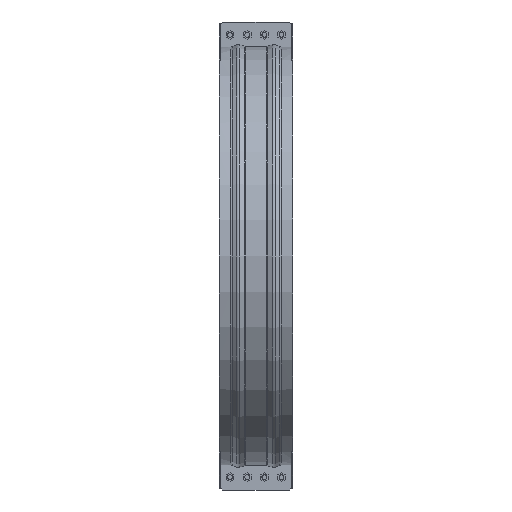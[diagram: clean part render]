
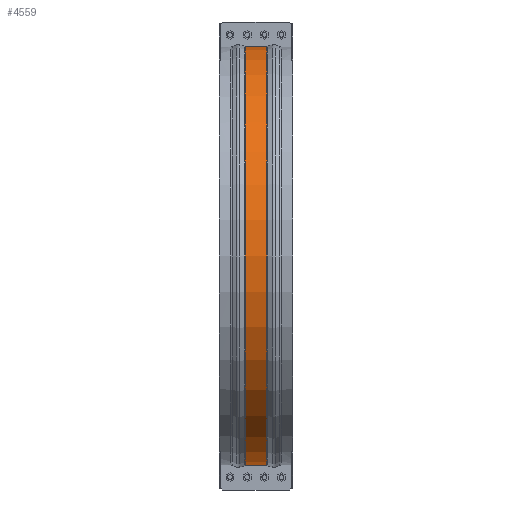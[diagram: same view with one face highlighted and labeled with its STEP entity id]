
A CAD part, front view. The second image highlights one B-rep face of the part: STEP entity #4559.
In plain terms, the highlighted cylindrical face has radius 1086.15 mm (diameter 2172.3 mm), a partial arc.
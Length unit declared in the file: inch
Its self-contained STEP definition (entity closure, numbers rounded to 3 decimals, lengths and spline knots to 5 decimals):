
#414=FACE_OUTER_BOUND('',#671,.T.);
#671=EDGE_LOOP('',(#3465,#3466,#3467,#3468));
#1036=LINE('',#7017,#1485);
#1044=LINE('',#7149,#1493);
#1485=VECTOR('',#5630,0.3937);
#1493=VECTOR('',#5690,0.3937);
#1771=CIRCLE('',#4875,42.76189);
#1773=CIRCLE('',#4879,42.76189);
#2060=VERTEX_POINT('',#7009);
#2061=VERTEX_POINT('',#7016);
#2076=VERTEX_POINT('',#7134);
#2078=VERTEX_POINT('',#7147);
#2565=EDGE_CURVE('',#2061,#2060,#1036,.T.);
#2590=EDGE_CURVE('',#2076,#2061,#1771,.T.);
#2594=EDGE_CURVE('',#2078,#2060,#1773,.T.);
#2595=EDGE_CURVE('',#2078,#2076,#1044,.T.);
#3465=ORIENTED_EDGE('',*,*,#2565,.T.);
#3466=ORIENTED_EDGE('',*,*,#2594,.F.);
#3467=ORIENTED_EDGE('',*,*,#2595,.T.);
#3468=ORIENTED_EDGE('',*,*,#2590,.T.);
#4182=CYLINDRICAL_SURFACE('',#4878,42.76189);
#4559=ADVANCED_FACE('',(#414),#4182,.T.);
#4875=AXIS2_PLACEMENT_3D('',#7135,#5679,#5680);
#4878=AXIS2_PLACEMENT_3D('',#7146,#5686,#5687);
#4879=AXIS2_PLACEMENT_3D('',#7148,#5688,#5689);
#5630=DIRECTION('',(1.,0.,0.));
#5679=DIRECTION('center_axis',(1.,0.,0.));
#5680=DIRECTION('ref_axis',(0.,0.,-1.));
#5686=DIRECTION('center_axis',(1.,0.,0.));
#5687=DIRECTION('ref_axis',(0.,-1.,0.));
#5688=DIRECTION('center_axis',(1.,0.,0.));
#5689=DIRECTION('ref_axis',(0.,0.,-1.));
#5690=DIRECTION('',(-1.,0.,0.));
#7009=CARTESIAN_POINT('',(2.15101,-0.375,-42.76024));
#7016=CARTESIAN_POINT('',(-2.15101,-0.375,-42.76024));
#7017=CARTESIAN_POINT('',(0.,-0.375,-42.76024));
#7134=CARTESIAN_POINT('',(-2.15101,-0.375,42.76024));
#7135=CARTESIAN_POINT('Origin',(-2.15101,0.,0.));
#7146=CARTESIAN_POINT('Origin',(0.,0.,0.));
#7147=CARTESIAN_POINT('',(2.15101,-0.375,42.76024));
#7148=CARTESIAN_POINT('Origin',(2.15101,0.,0.));
#7149=CARTESIAN_POINT('',(0.,-0.375,42.76024));
